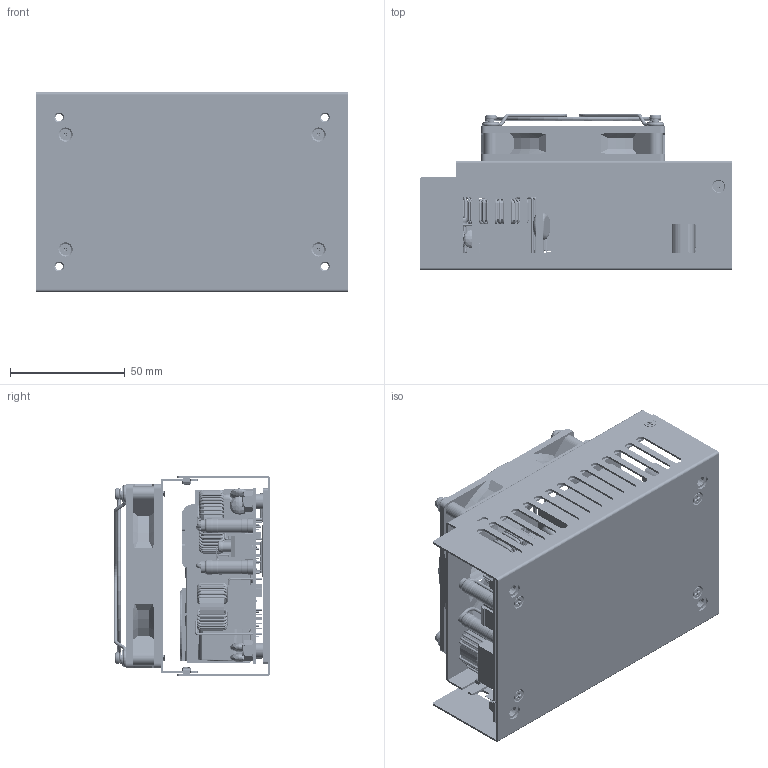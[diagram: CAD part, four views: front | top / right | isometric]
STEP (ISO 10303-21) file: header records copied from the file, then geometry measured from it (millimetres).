
FILE_DESCRIPTION (( 'STEP AP203' ), '1' );
FILE_NAME ('CFM600SXXXF ¦¨«~¹Ï-20260615.STEP', '2026-06-15T01:06:32', ( 'cincon' ), ( '' ), 'SwSTEP 2.0', 'SolidWorks 2020', '' );
FILE_SCHEMA (( 'CONFIG_CONTROL_DESIGN' ));
Length unit declared in the file: millimetre
Products named in the file (67): 6.4x11.6mm電容+熱縮套管-0514; 60QC06; CFM600S鋁板散熱片()(V1.0)-20250415; CFM500M LPF1 bobbin示意圖-10812; 螺母M5-1030904; 10x12.6mm電容; 6.4x12mm電容-0514; CFM600SXXX & CFM600SXXX-PC & CFM600SXXX-PM 成品圖-20260331_CFM600SXXXF&CFM600FXXX-PC ; OptoCoupler TLP521-2; CFM500M LPF1變壓器示意圖-10812; CFM600SXXXF ､pPCBA ｱｱ･d-1130624; CFM500M鋁板散熱片 G6612780421(M-B159-00-J)-1130621 未進V1.1版前請抓這個圖檔; 10x12.6mm電容+熱縮套管-0513; CFM500S-C風扇示意圖-1120725; CFM600S 絕緣片  G612917J204-1130430_成型; CFM500M 電感示意圖(02)-1081126; CFM500M Z1-10812; CFM500M T2變壓器 BASE-1081227; CFM500M變壓器A-1090513; PCB-58M4 KY PC板焊接端子2019.10.07; (參考)Header 1.27 Horizontal 6x-10812_切掉; CFM600SXXXF 上蓋(M-B138-P)G6690350414(V1.0)-1130730; CFM500M絕緣片C-N3-8 G612914D204 1091008_預設SM-FLAT-PATTERN; CFM600SXXXF ､pPCB ｱｱ･d-1130624; CFM500M絕緣片B單背黑色膠帶PET(TKB25)G612914C304-1090408_組裝模擬; CFM500M QE27  Core 示意圖-1081224 _加膠帶; CFM500M 3M 1350T-3膠帶C G6162000400-1090305; P1022-1x04RGF-110-G; CFM500M QE27  Core 示意圖-1081224 ; M3x3mm平頭十字螺絲 G75A3100982 G75A3100981(M-B062-S)V1.0-1110114; User Library-Feng SHan ZHao Zi 80X80-1; CFM500M C1 30.8x31.8mm電容; CFM300M六角銅柱M5-1040518; ¼uÂ®µØ¥q£X4.2(M-B057-00-S)G75M5950131; CFM500M RELAY1; Electrolitic Capacitor Radial (6.5X12); 4PIN插座; G7424006938 B2P3-VH 2PIN(3孔)插座示意圖-1130620; CFM500M C3-1090513; CFM500M CY1-1081223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
Assembly tree (102 placements, depth 5):
  CFM600SXXXF 成品圖-20260615
    CFM600SXXX & CFM600SXXX-PC & CFM600SXXX-PM 成品圖-20260331_CFM600SXXXF&CFM600FXXX-PC 
      CFM600S PCBA-20260331_使用於F版本
        CFM600S PCB-1130619
        CFM500M變壓器A-1090513
        CFM500M LPF1變壓器示意圖-10812
          CFM500M LPF1 bobbin示意圖-10812
          CFM500M QE27  Core 示意圖-1081224 
          CFM500M QE27  Core 示意圖-1081224 _加膠帶
        CFM500M LPF1變壓器示意圖-10812
          CFM500M LPF1 bobbin示意圖-10812
          CFM500M QE27  Core 示意圖-1081224 
          CFM500M QE27  Core 示意圖-1081224 _加膠帶
        CFM500M C1 30.8x31.8mm電容
        6.4x11.6mm電容+熱縮套管-0514  x2
        10x12.6mm電容+熱縮套管-0513  x2
        10x12.6mm電容  x3
        D4
        Electrolitic Capacitor Radial (6.5X12)
        CFM400M保險絲示意圖2021.03.12  x2
        CFM500M電阻示意圖  x2
        CFM500M RELAY1
        CFM500M C3-1090513
        CFM500M C61-1081223
        CFM600M 電感L2示意圖-20260331
        CFM500M 電感示意圖(02)-1081126
        G7424006938 B2P3-VH 2PIN(3孔)插座示意圖-1130620
        CFM500M T2變壓器 BASE-1081227
        CFM500M變壓器C-1090514
        60QC06
        PCB-58M4 KY PC板焊接端子2019.10.07  x2
        ¼uÂ®µØ¥q£X4.2(M-B057-00-S)G75M5950131  x2
        M4x6mm螺絲(M-B056-00-S)G75M3200121  x2
        CFM500M CY1-1081223  x4
        CFM500M Z1-10812
        CFM500M CY2-1061211
        OptoCoupler TLP521-2
        6.4x12mm電容-0514
        溫度開關(參考)-1090513
        (參考)Header 1.27 Horizontal 6x-10812_切掉  x2
        CFM500M絕緣片C-N3-8 G612914D204 1091008_預設SM-FLAT-PATTERN
        P1022-1x04RGF-110-G
      CFM600S ､pPCBA ｱｱ･d-1130619
        CFM600S ､pPCB ｱｱ･d-1130619
        OptoCoupler TLP521-2  x3
        CFM300M 6.4mm電容
        VR 3362W 
        CFM500M絕緣片B單背黑色膠帶PET(TKB25)G612914C304-1090408_組裝模擬
        b304f-12rgf-104-lx
      螺母M5-1030904  x4
      CFM500M鋁板散熱片 G6612780421(M-B159-00-J)-1130621 未進V1.1版前請抓這個圖檔
        CFM300M六角銅柱M5-1040518  x4
        CFM500M鋁板散熱片 G6612780421(M-B159-00-J)-1090423
      CFM600S 絕緣片  G612917J204-1130430_成型
      CFM600S 黃色絕緣膠帶 G6162005200-1130528
      CFM500M 3M 1350T-3膠帶A G6162000200-1090305
      CFM500M 3M 1350T-3膠帶C G6162000400-1090305
      CFM600SXXXF ､pPCBA ｱｱ･d-1130624
        CFM600SXXXF ､pPCB ｱｱ･d-1130624
        4PIN插座
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Bounding box: 136 x 68.1 x 87 mm (x, y, z)
Volume: 249942.7 mm3; surface area: 279934.4 mm2
Topology: 208 solids, 210 shells, 8212 faces, 21407 edges, 13765 vertices
Faces by surface type: plane 3415, cylinder 3022, torus 1023, bspline 385, cone 359, sphere 8
Entity records: 228495 total; most frequent: CARTESIAN_POINT 67484, DIRECTION 32810, ORIENTED_EDGE 32138, EDGE_CURVE 16069, AXIS2_PLACEMENT_3D 12263, VERTEX_POINT 10353, LINE 8284, VECTOR 8284
